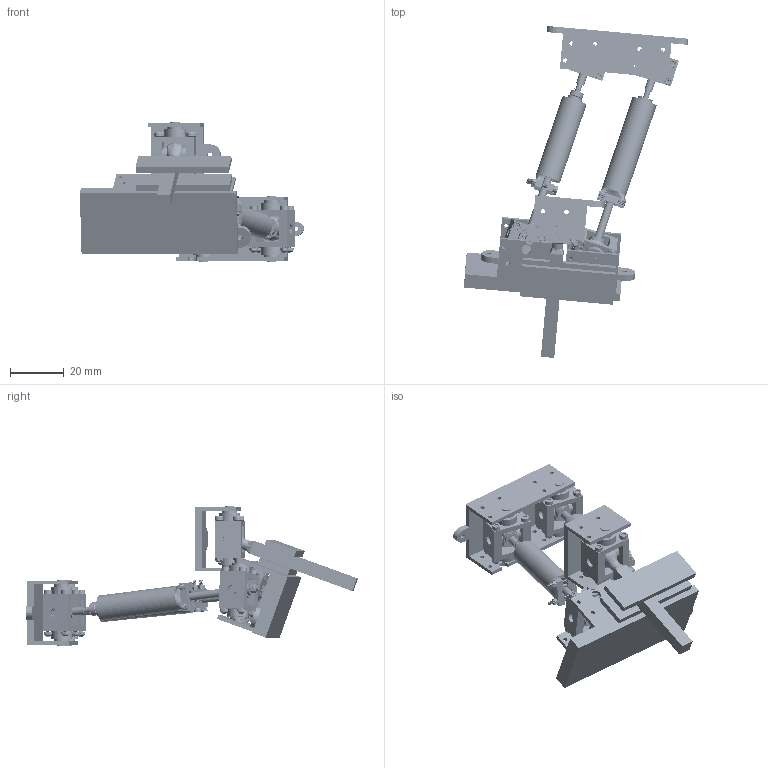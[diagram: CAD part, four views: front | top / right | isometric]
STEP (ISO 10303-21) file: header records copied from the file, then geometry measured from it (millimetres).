
FILE_DESCRIPTION(/* description */ (''),/* implementation_level */ '2;1');
FILE_NAME(/* name */ 'Adduction by 20 degrees from 06 project 95 from 05 Project Four Fingers etc.step',/* time_stamp */ '2026-07-05T19:11:34-04:00',/* author */ (''),/* organization */ (''),/* preprocessor_version */ 'ST-DEVELOPER v20.1',/* originating_system */ 'Autodesk Translation Framework v15.8.0.0',/* authorisation */ '');
FILE_SCHEMA (('AUTOMOTIVE_DESIGN { 1 0 10303 214 3 1 1 }'));
Products named in the file (153): 2026-07-05-19-11-30-582; 2026-07-05-19-11-30-583; #321817; #321818; 2026-07-05-19-11-30-583_3; 2026-07-05-19-11-30-660; #321821; #321822; #321823; #321824; 2026-07-05-19-11-30-639; 2026-07-05-19-11-30-641; 2026-07-05-19-11-30-641_1; 2026-07-05-19-11-30-646_2; #321829; #321830; #321831; #321832; 2026-07-05-19-11-30-640_4; 2026-07-05-19-11-30-641_2; #321835; 2026-07-05-19-11-30-640_6; 2026-07-05-19-11-30-639_1; 2026-07-05-19-11-30-639_2; 2026-07-05-19-11-30-641_3; #321840; #321841; #321842; #321843; #321844; #321845; #321846; #321847; 2026-07-05-19-11-30-654; 2026-07-05-19-11-30-655; 2026-07-05-19-11-30-658; 2026-07-05-19-11-30-658_1; #321852; #321853; #321854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
Assembly tree (162 placements, depth 7):
  2026-07-05-19-11-30-582
    2026-07-05-19-11-30-583
      #321817
      #321818
      2026-07-05-19-11-30-583_3
        2026-07-05-19-11-30-660
        #321821
          #321822
            #321823
            #321824
              2026-07-05-19-11-30-639
              2026-07-05-19-11-30-641
              2026-07-05-19-11-30-641_1
              2026-07-05-19-11-30-646_2
              #321829
              #321830
              #321831
              #321832
              2026-07-05-19-11-30-640_4
              2026-07-05-19-11-30-641_2
              #321835
              2026-07-05-19-11-30-640_6
              2026-07-05-19-11-30-639_1
              2026-07-05-19-11-30-639_2
              2026-07-05-19-11-30-641_3
              #321840
            #321841
              #321842
              #321843
              #321844
        #321845
          #321846
          #321847
            2026-07-05-19-11-30-654
            2026-07-05-19-11-30-655
            2026-07-05-19-11-30-658
            2026-07-05-19-11-30-658_1
            #321852
            #321853
            #321854
            #321855
            2026-07-05-19-11-30-655_5
            2026-07-05-19-11-30-656
            #321858
            2026-07-05-19-11-30-657
            2026-07-05-19-11-30-657_1
            2026-07-05-19-11-30-658_2
            2026-07-05-19-11-30-658_3
            #321863
          #321864
            #321865
            #321866
            #321867
      2026-07-05-19-11-30-583_5
    #321869
      2026-07-05-19-11-30-599
        #321871
      2026-07-05-19-11-30-600
      2026-07-05-19-11-30-600_1
        2026-07-05-19-11-30-595_1
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Bounding box: 83.89 x 124.12 x 52.35 mm (x, y, z)
Volume: 33066 mm3; surface area: 42919.2 mm2
Topology: 136 solids, 140 shells, 5206 faces, 13313 edges, 8568 vertices
Faces by surface type: cylinder 2814, plane 1050, cone 651, bspline 535, torus 156
Full cylindrical faces by diameter (mm): 0.971 x12, 1.002 x132, 1.021 x20, 1.145 x894, 1.2 x2, 1.257 x20, 1.333 x2, 1.379 x40, 1.4 x132, 1.541 x18, 1.545 x20, 1.586 x4, 1.6 x932, 1.72 x2, 1.907 x20, 1.926 x36, 1.97 x2, 2 x13, 2.1 x4, 2.2 x4, 2.625 x4, 2.722 x2, 3 x76, 3.6 x52, 4 x1, 4.979 x2, 5 x2, 5.5 x4, 5.6 x2, 5.8 x30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
Entity records: 319277 total; most frequent: CARTESIAN_POINT 217718, ORIENTED_EDGE 23274, DIRECTION 16875, EDGE_CURVE 11649, VERTEX_POINT 7484, AXIS2_PLACEMENT_3D 6629, EDGE_LOOP 5033, FACE_OUTER_BOUND 4590
